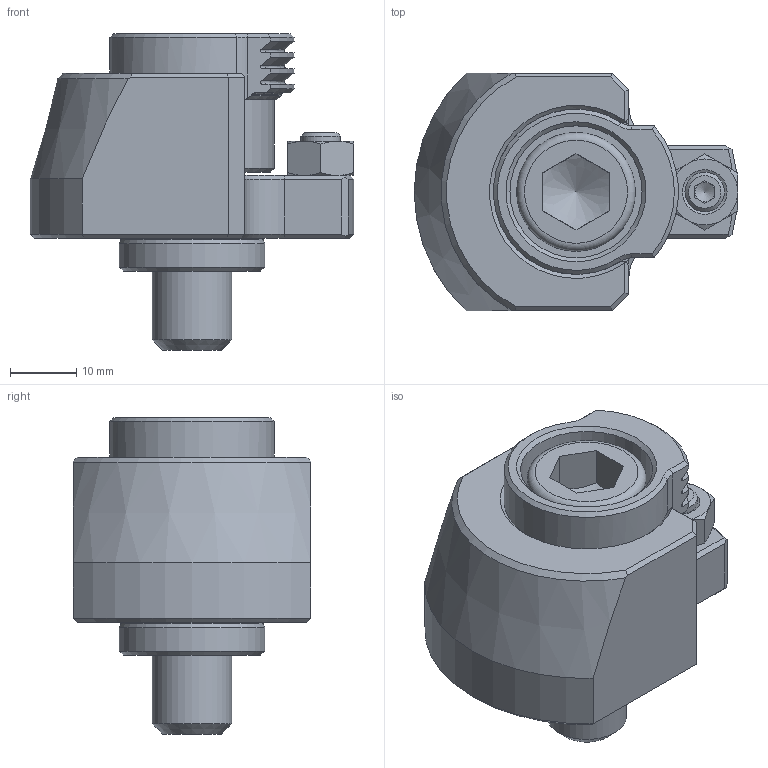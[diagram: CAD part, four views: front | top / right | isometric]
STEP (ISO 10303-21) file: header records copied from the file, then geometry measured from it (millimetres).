
FILE_DESCRIPTION(('STEP AP214'), '1');
FILE_NAME('BB.VS.100.51.025', '', ('UNSPECIFIED'), ('UNSPECIFIED'), 'C3D Converter', 'C3D Toolkit', '');
FILE_SCHEMA(('AUTOMOTIVE_DESIGN { 1 0 10303 214 3 1 1}'));
Length unit declared in the file: millimetre
Products named in the file (1): BB.VS.100.51.025 СБ
Bounding box: 49 x 36 x 48 mm (x, y, z)
Volume: 33408.8 mm3; surface area: 11569.5 mm2
Topology: 1 solids, 1 shells, 154 faces, 380 edges, 234 vertices
Faces by surface type: plane 78, cone 44, cylinder 22, bspline 6, torus 4
Full cylindrical faces by diameter (mm): 6 x1, 12 x1, 13 x2, 18 x1, 20 x1, 22 x1, 25 x1
Entity records: 6866 total; most frequent: CARTESIAN_POINT 2151, ORIENTED_EDGE 702, DIRECTION 700, EDGE_CURVE 351, AXIS2_PLACEMENT_3D 270, VERTEX_POINT 232, EDGE_LOOP 189, LINE 160
